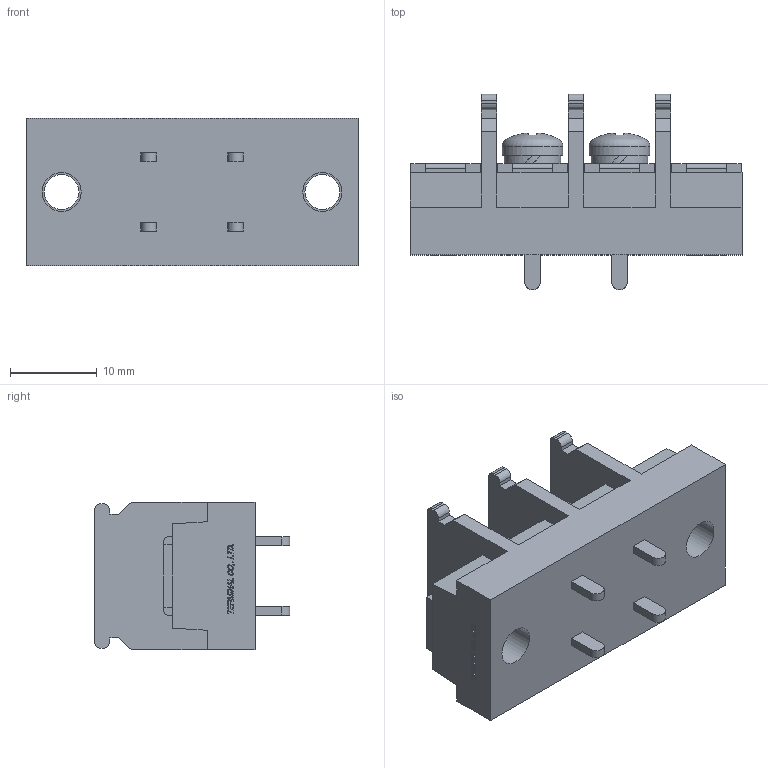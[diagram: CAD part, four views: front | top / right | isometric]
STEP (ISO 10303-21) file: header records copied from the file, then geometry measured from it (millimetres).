
FILE_DESCRIPTION(/* description */ ('Alibre Inc.'),/* implementation_level */ '2;1');
FILE_NAME(/* name */ 'export0',/* time_stamp */ '2015-10-17T15:41:47+09:00',/* author */ (''),/* organization */ (''),/* preprocessor_version */ 'ST-DEVELOPER v14',/* originating_system */ 'Alibre',/* authorisation */ '');
FILE_SCHEMA (('CONFIG_CONTROL_DESIGN'));
Length unit declared in the file: centimetre
Products named in the file (1): ID_1
Bounding box: 38.2 x 22.5 x 17 mm (x, y, z)
Volume: 6496.9 mm3; surface area: 4107.6 mm2
Topology: 1 solids, 17 shells, 588 faces, 1560 edges, 1038 vertices
Faces by surface type: plane 436, bspline 104, cylinder 34, cone 8, torus 4, sphere 2
Full cylindrical faces by diameter (mm): 4 x4, 4.5 x2, 6.5 x2, 7 x2
Entity records: 17654 total; most frequent: CARTESIAN_POINT 4143, ORIENTED_EDGE 3084, DIRECTION 1958, EDGE_CURVE 1542, VECTOR 1192, LINE 1192, VERTEX_POINT 1032, EDGE_LOOP 648
